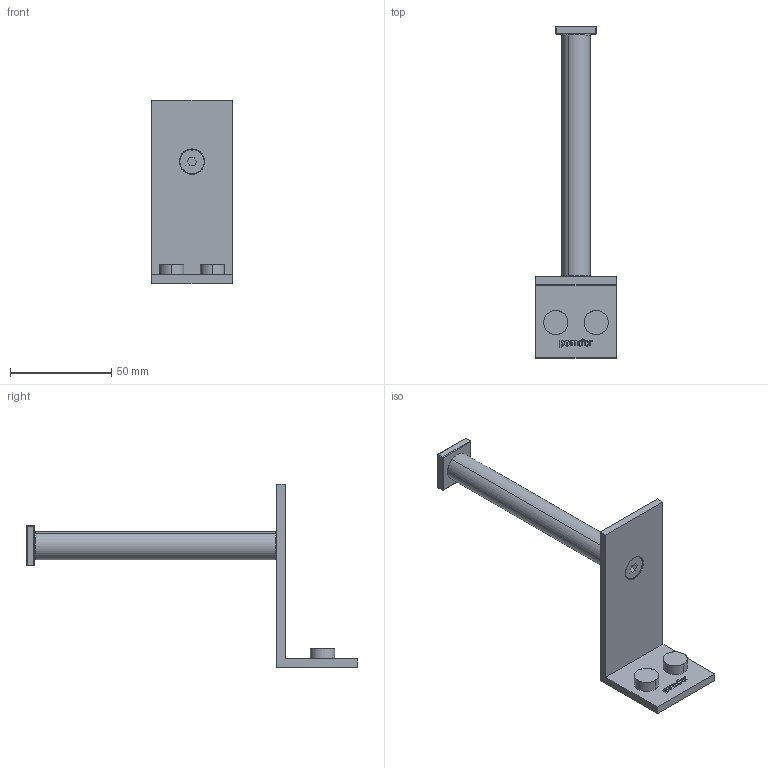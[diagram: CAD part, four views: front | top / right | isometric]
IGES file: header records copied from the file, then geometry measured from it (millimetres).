
Start section: SolidWorks IGES file using analytic representation for surfaces
Global section: file name: G:\Projects\New project\For Marketing\IGS\IGS\2015-12-4\384042002VW.IGS; native system: SolidWorks 2010; preprocessor: SolidWorks 2010; author: weijuan; date: 151202.152354; units: inch
Bounding box: 40 x 163.95 x 90 mm (x, y, z)
Surface area: 18512.5 mm2 (no closed solid volume)
Topology: 0 solids, 0 shells, 74 faces, 816 edges, 814 vertices
Faces by surface type: bspline 42, revolution 32
